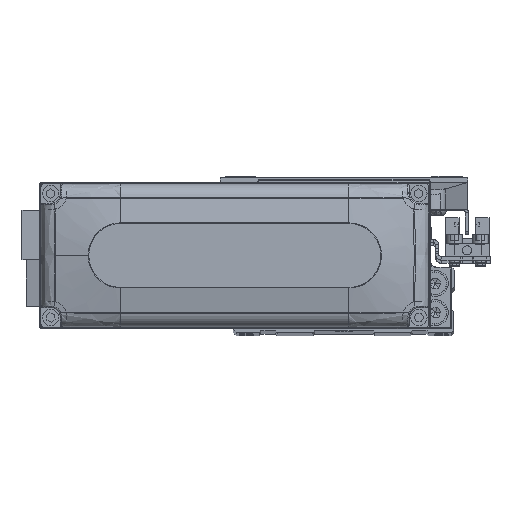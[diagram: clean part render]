
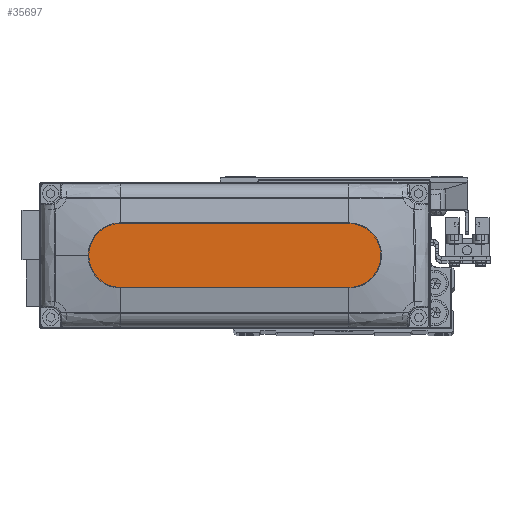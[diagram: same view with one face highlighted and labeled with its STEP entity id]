
A CAD part, top view. The second image highlights one B-rep face of the part: STEP entity #35697.
In plain terms, the highlighted planar face has unit normal (0, 0, 1).
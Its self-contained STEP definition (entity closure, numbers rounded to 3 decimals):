
#142 = VECTOR ( 'NONE', #7756, 1000. ) ;
#507 = EDGE_CURVE ( 'NONE', #17410, #19480, #17621, .T. ) ;
#697 = DIRECTION ( 'NONE',  ( 0., 0., 1. ) ) ;
#742 = DIRECTION ( 'NONE',  ( 1., 0., 0. ) ) ;
#3685 = DIRECTION ( 'NONE',  ( 0., 0., 1. ) ) ;
#5526 = VERTEX_POINT ( 'NONE', #10308 ) ;
#5629 = CIRCLE ( 'NONE', #11450, 10. ) ;
#7086 = FACE_OUTER_BOUND ( 'NONE', #23784, .T. ) ;
#7756 = DIRECTION ( 'NONE',  ( -1., 0., 0. ) ) ;
#10308 = CARTESIAN_POINT ( 'NONE',  ( -35., -10., 28. ) ) ;
#11450 = AXIS2_PLACEMENT_3D ( 'NONE', #13878, #27827, #41743 ) ;
#13787 = AXIS2_PLACEMENT_3D ( 'NONE', #31980, #697, #14600 ) ;
#13878 = CARTESIAN_POINT ( 'NONE',  ( 35., 0., 28. ) ) ;
#14016 = VERTEX_POINT ( 'NONE', #43580 ) ;
#14298 = LINE ( 'NONE', #28257, #41539 ) ;
#14600 = DIRECTION ( 'NONE',  ( 1., 0., 0. ) ) ;
#15023 = AXIS2_PLACEMENT_3D ( 'NONE', #34964, #3685, #17582 ) ;
#15565 = ORIENTED_EDGE ( 'NONE', *, *, #34927, .T. ) ;
#17303 = ORIENTED_EDGE ( 'NONE', *, *, #39175, .T. ) ;
#17410 = VERTEX_POINT ( 'NONE', #22538 ) ;
#17582 = DIRECTION ( 'NONE',  ( 1., 0., 0. ) ) ;
#17621 = CIRCLE ( 'NONE', #24380, 10. ) ;
#18067 = CARTESIAN_POINT ( 'NONE',  ( 35., 0., 28. ) ) ;
#18442 = ORIENTED_EDGE ( 'NONE', *, *, #24103, .T. ) ;
#19480 = VERTEX_POINT ( 'NONE', #43948 ) ;
#21024 = PLANE ( 'NONE',  #15023 ) ;
#22538 = CARTESIAN_POINT ( 'NONE',  ( 35., -10., 28. ) ) ;
#23644 = EDGE_CURVE ( 'NONE', #14016, #5526, #33500, .T. ) ;
#23784 = EDGE_LOOP ( 'NONE', ( #17303, #33595, #18442, #30408, #15565 ) ) ;
#24103 = EDGE_CURVE ( 'NONE', #5526, #17410, #14298, .T. ) ;
#24380 = AXIS2_PLACEMENT_3D ( 'NONE', #18067, #32029, #742 ) ;
#25123 = LINE ( 'NONE', #39049, #142 ) ;
#27827 = DIRECTION ( 'NONE',  ( 0., 0., 1. ) ) ;
#28257 = CARTESIAN_POINT ( 'NONE',  ( -35., -10., 28. ) ) ;
#30408 = ORIENTED_EDGE ( 'NONE', *, *, #507, .T. ) ;
#31103 = VERTEX_POINT ( 'NONE', #37408 ) ;
#31980 = CARTESIAN_POINT ( 'NONE',  ( -35., 0., 28. ) ) ;
#32029 = DIRECTION ( 'NONE',  ( 0., 0., 1. ) ) ;
#33500 = CIRCLE ( 'NONE', #13787, 10. ) ;
#33595 = ORIENTED_EDGE ( 'NONE', *, *, #23644, .T. ) ;
#34927 = EDGE_CURVE ( 'NONE', #19480, #31103, #5629, .T. ) ;
#34964 = CARTESIAN_POINT ( 'NONE',  ( 0., 0., 28. ) ) ;
#35697 = ADVANCED_FACE ( 'NONE', ( #7086 ), #21024, .T. ) ;
#37408 = CARTESIAN_POINT ( 'NONE',  ( 35., 10., 28. ) ) ;
#39049 = CARTESIAN_POINT ( 'NONE',  ( -35., 10., 28. ) ) ;
#39175 = EDGE_CURVE ( 'NONE', #31103, #14016, #25123, .T. ) ;
#41539 = VECTOR ( 'NONE', #42170, 1000. ) ;
#41743 = DIRECTION ( 'NONE',  ( 1., 0., 0. ) ) ;
#42170 = DIRECTION ( 'NONE',  ( 1., 0., 0. ) ) ;
#43580 = CARTESIAN_POINT ( 'NONE',  ( -35., 10., 28. ) ) ;
#43948 = CARTESIAN_POINT ( 'NONE',  ( 45., 0., 28. ) ) ;
